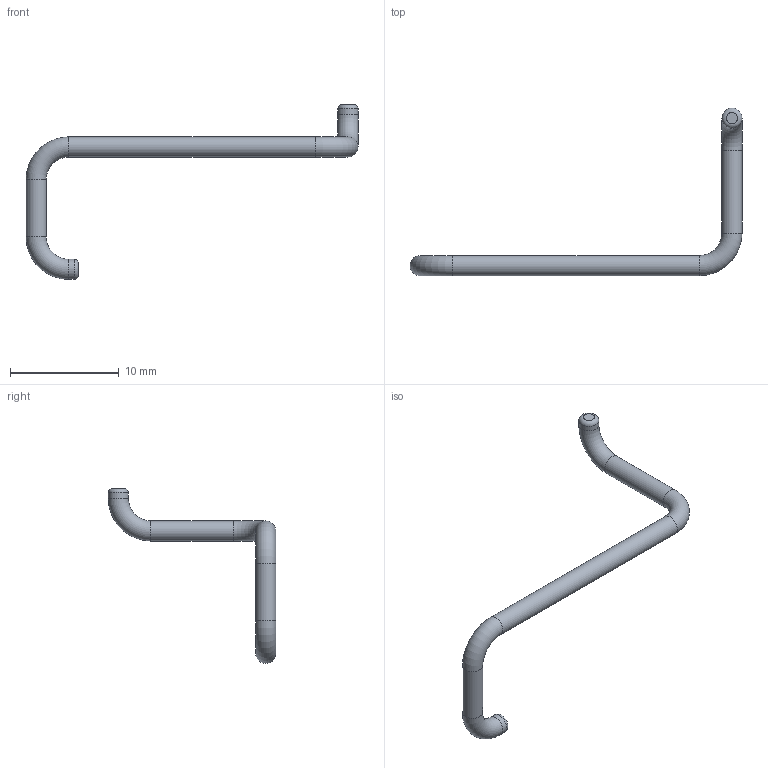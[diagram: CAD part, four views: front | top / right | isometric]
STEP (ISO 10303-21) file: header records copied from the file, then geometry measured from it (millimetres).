
FILE_DESCRIPTION(('Open CASCADE Model'),'2;1');
FILE_NAME('CUT_ROUTE_08_RADIAL_CLEARANCE_0p4','2026-09-15T14:21:43',( 'Author'),('Open CASCADE'),'Open CASCADE STEP processor 7.9', 'build123d','Unknown');
FILE_SCHEMA(('AUTOMOTIVE_DESIGN { 1 0 10303 214 1 1 1 1 }'));
Length unit declared in the file: millimetre
Products named in the file (1): CUT_ROUTE_08_RADIAL_CLEARANCE_0p4
Bounding box: 30.54 x 15.41 x 16.09 mm (x, y, z)
Volume: 150.6 mm3; surface area: 329.7 mm2
Topology: 1 solids, 1 shells, 13 faces, 23 edges, 12 vertices
Faces by surface type: torus 6, cylinder 5, plane 2
Full cylindrical faces by diameter (mm): 1.85 x5
Entity records: 607 total; most frequent: CARTESIAN_POINT 112, DIRECTION 98, ORIENTED_EDGE 46, PCURVE 46, DEFINITIONAL_REPRESENTATION 46, AXIS2_PLACEMENT_3D 32, LINE 32, VECTOR 32
